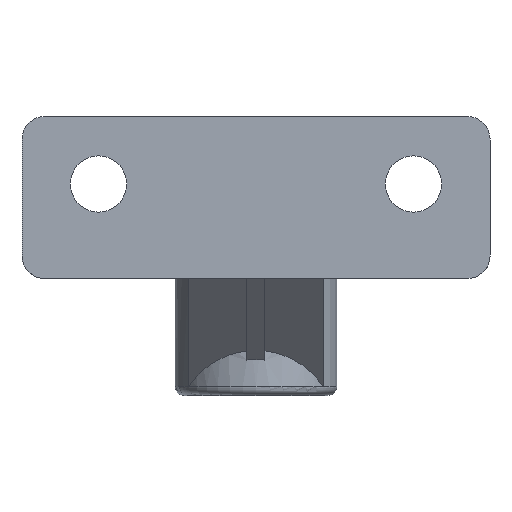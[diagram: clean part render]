
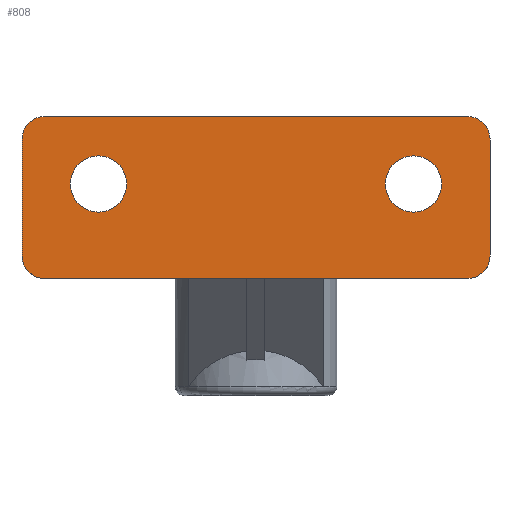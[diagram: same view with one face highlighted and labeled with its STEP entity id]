
A CAD part, front view. The second image highlights one B-rep face of the part: STEP entity #808.
In plain terms, the highlighted planar face has unit normal (0, -1, 0).
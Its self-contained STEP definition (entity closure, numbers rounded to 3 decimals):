
#41 = ORIENTED_EDGE ( 'NONE', *, *, #633, .T. ) ;
#42 = CARTESIAN_POINT ( 'NONE',  ( 26., 0., -9. ) ) ;
#53 = DIRECTION ( 'NONE',  ( 0., 0., 1. ) ) ;
#55 = CARTESIAN_POINT ( 'NONE',  ( 23.5, 0., 6.5 ) ) ;
#60 = VERTEX_POINT ( 'NONE', #814 ) ;
#73 = DIRECTION ( 'NONE',  ( 0., 0., 1. ) ) ;
#82 = VECTOR ( 'NONE', #1662, 1000. ) ;
#91 = DIRECTION ( 'NONE',  ( 0., 0., -1. ) ) ;
#93 = VERTEX_POINT ( 'NONE', #678 ) ;
#101 = VERTEX_POINT ( 'NONE', #1475 ) ;
#104 = VECTOR ( 'NONE', #881, 1000. ) ;
#121 = EDGE_CURVE ( 'NONE', #296, #1267, #962, .T. ) ;
#160 = CARTESIAN_POINT ( 'NONE',  ( -26., 0., 9. ) ) ;
#171 = CARTESIAN_POINT ( 'NONE',  ( -26., 0., 6.5 ) ) ;
#185 = DIRECTION ( 'NONE',  ( 0., 0., -1. ) ) ;
#239 = VERTEX_POINT ( 'NONE', #1070 ) ;
#243 = FACE_BOUND ( 'NONE', #776, .T. ) ;
#275 = DIRECTION ( 'NONE',  ( 0., -1., 0. ) ) ;
#296 = VERTEX_POINT ( 'NONE', #1079 ) ;
#345 = DIRECTION ( 'NONE',  ( 0., 1., 0. ) ) ;
#354 = VECTOR ( 'NONE', #91, 1000. ) ;
#357 = FACE_BOUND ( 'NONE', #642, .T. ) ;
#369 = LINE ( 'NONE', #1727, #354 ) ;
#390 = CARTESIAN_POINT ( 'NONE',  ( -23.5, 0., -6.5 ) ) ;
#402 = ORIENTED_EDGE ( 'NONE', *, *, #1270, .F. ) ;
#409 = CIRCLE ( 'NONE', #655, 3.125 ) ;
#411 = CARTESIAN_POINT ( 'NONE',  ( 26., 0., 9. ) ) ;
#483 = AXIS2_PLACEMENT_3D ( 'NONE', #486, #1300, #53 ) ;
#486 = CARTESIAN_POINT ( 'NONE',  ( 23.5, 0., -6.5 ) ) ;
#492 = AXIS2_PLACEMENT_3D ( 'NONE', #55, #1302, #1120 ) ;
#538 = EDGE_CURVE ( 'NONE', #1236, #1236, #958, .T. ) ;
#547 = DIRECTION ( 'NONE',  ( 0., 0., 1. ) ) ;
#548 = CARTESIAN_POINT ( 'NONE',  ( -17.5, 0., 4.625 ) ) ;
#576 = EDGE_CURVE ( 'NONE', #1424, #60, #731, .T. ) ;
#606 = EDGE_CURVE ( 'NONE', #684, #684, #409, .T. ) ;
#618 = AXIS2_PLACEMENT_3D ( 'NONE', #390, #275, #547 ) ;
#623 = EDGE_CURVE ( 'NONE', #101, #93, #1586, .T. ) ;
#628 = ORIENTED_EDGE ( 'NONE', *, *, #801, .F. ) ;
#633 = EDGE_CURVE ( 'NONE', #1267, #239, #1709, .T. ) ;
#638 = ORIENTED_EDGE ( 'NONE', *, *, #538, .T. ) ;
#642 = EDGE_LOOP ( 'NONE', ( #1587 ) ) ;
#649 = CARTESIAN_POINT ( 'NONE',  ( 26., 0., -6.5 ) ) ;
#655 = AXIS2_PLACEMENT_3D ( 'NONE', #1281, #1561, #1425 ) ;
#678 = CARTESIAN_POINT ( 'NONE',  ( 23.5, 0., 9. ) ) ;
#684 = VERTEX_POINT ( 'NONE', #812 ) ;
#731 = LINE ( 'NONE', #42, #104 ) ;
#772 = ORIENTED_EDGE ( 'NONE', *, *, #921, .T. ) ;
#776 = EDGE_LOOP ( 'NONE', ( #638 ) ) ;
#801 = EDGE_CURVE ( 'NONE', #101, #1135, #369, .T. ) ;
#808 = ADVANCED_FACE ( 'NONE', ( #357, #243, #1749 ), #1094, .F. ) ;
#812 = CARTESIAN_POINT ( 'NONE',  ( 17.5, 0., 4.625 ) ) ;
#814 = CARTESIAN_POINT ( 'NONE',  ( 23.5, 0., -9. ) ) ;
#837 = CIRCLE ( 'NONE', #618, 2.5 ) ;
#858 = ORIENTED_EDGE ( 'NONE', *, *, #576, .T. ) ;
#870 = CARTESIAN_POINT ( 'NONE',  ( -17.5, 0., 1.5 ) ) ;
#881 = DIRECTION ( 'NONE',  ( 1., 0., 0. ) ) ;
#885 = DIRECTION ( 'NONE',  ( 0., 0., 1. ) ) ;
#893 = DIRECTION ( 'NONE',  ( 0., 1., 0. ) ) ;
#921 = EDGE_CURVE ( 'NONE', #239, #1424, #837, .T. ) ;
#958 = CIRCLE ( 'NONE', #1057, 3.125 ) ;
#962 = CIRCLE ( 'NONE', #1603, 2.5 ) ;
#999 = ORIENTED_EDGE ( 'NONE', *, *, #623, .T. ) ;
#1057 = AXIS2_PLACEMENT_3D ( 'NONE', #870, #345, #885 ) ;
#1070 = CARTESIAN_POINT ( 'NONE',  ( -26., 0., -6.5 ) ) ;
#1077 = CARTESIAN_POINT ( 'NONE',  ( -23.5, 0., 6.5 ) ) ;
#1079 = CARTESIAN_POINT ( 'NONE',  ( -23.5, 0., 9. ) ) ;
#1094 = PLANE ( 'NONE',  #1159 ) ;
#1117 = LINE ( 'NONE', #411, #82 ) ;
#1120 = DIRECTION ( 'NONE',  ( 0., 0., 1. ) ) ;
#1135 = VERTEX_POINT ( 'NONE', #649 ) ;
#1139 = ORIENTED_EDGE ( 'NONE', *, *, #1342, .T. ) ;
#1159 = AXIS2_PLACEMENT_3D ( 'NONE', #1189, #893, #73 ) ;
#1185 = ORIENTED_EDGE ( 'NONE', *, *, #121, .T. ) ;
#1189 = CARTESIAN_POINT ( 'NONE',  ( 26., 0., 9. ) ) ;
#1236 = VERTEX_POINT ( 'NONE', #548 ) ;
#1267 = VERTEX_POINT ( 'NONE', #171 ) ;
#1270 = EDGE_CURVE ( 'NONE', #296, #93, #1117, .T. ) ;
#1281 = CARTESIAN_POINT ( 'NONE',  ( 17.5, 0., 1.5 ) ) ;
#1300 = DIRECTION ( 'NONE',  ( 0., -1., 0. ) ) ;
#1302 = DIRECTION ( 'NONE',  ( 0., -1., 0. ) ) ;
#1319 = CIRCLE ( 'NONE', #483, 2.5 ) ;
#1342 = EDGE_CURVE ( 'NONE', #60, #1135, #1319, .T. ) ;
#1349 = DIRECTION ( 'NONE',  ( 0., 0., 1. ) ) ;
#1424 = VERTEX_POINT ( 'NONE', #1543 ) ;
#1425 = DIRECTION ( 'NONE',  ( 0., 0., 1. ) ) ;
#1475 = CARTESIAN_POINT ( 'NONE',  ( 26., 0., 6.5 ) ) ;
#1489 = DIRECTION ( 'NONE',  ( 0., -1., 0. ) ) ;
#1543 = CARTESIAN_POINT ( 'NONE',  ( -23.5, 0., -9. ) ) ;
#1561 = DIRECTION ( 'NONE',  ( 0., 1., 0. ) ) ;
#1571 = EDGE_LOOP ( 'NONE', ( #858, #1139, #628, #999, #402, #1185, #41, #772 ) ) ;
#1586 = CIRCLE ( 'NONE', #492, 2.5 ) ;
#1587 = ORIENTED_EDGE ( 'NONE', *, *, #606, .T. ) ;
#1603 = AXIS2_PLACEMENT_3D ( 'NONE', #1077, #1489, #1349 ) ;
#1662 = DIRECTION ( 'NONE',  ( 1., 0., 0. ) ) ;
#1709 = LINE ( 'NONE', #160, #1725 ) ;
#1725 = VECTOR ( 'NONE', #185, 1000. ) ;
#1727 = CARTESIAN_POINT ( 'NONE',  ( 26., 0., 9. ) ) ;
#1749 = FACE_OUTER_BOUND ( 'NONE', #1571, .T. ) ;
